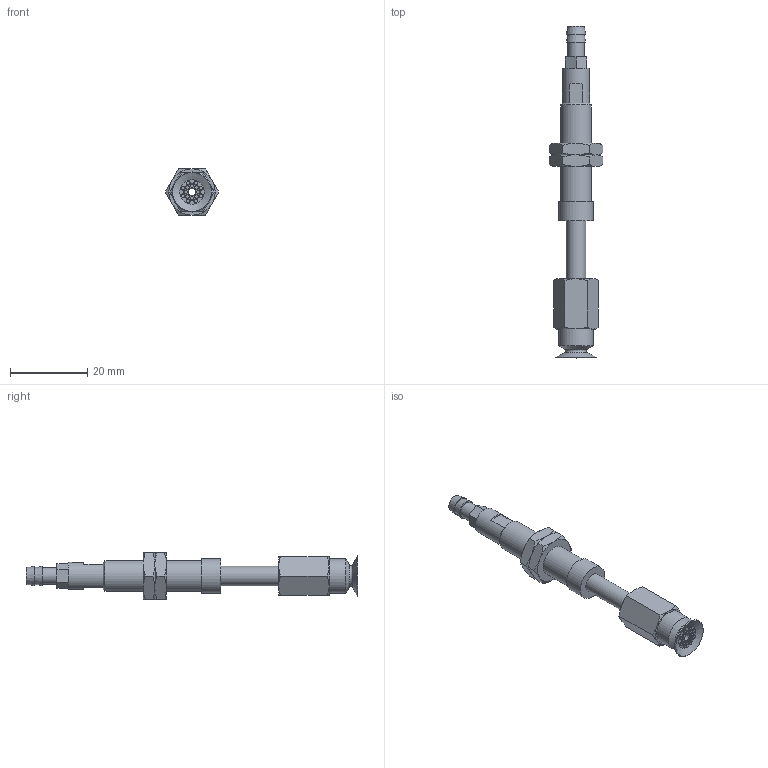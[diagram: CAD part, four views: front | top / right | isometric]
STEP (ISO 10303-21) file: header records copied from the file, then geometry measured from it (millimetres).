
FILE_DESCRIPTION(('STEP AP203'),'1');
FILE_NAME('-T.stp','2025-08-26T08:40:00',(' '),(' '),'Spatial InterOp 3D',' ',' ');
FILE_SCHEMA(('CONFIG_CONTROL_DESIGN'));
Length unit declared in the file: millimetre
Products named in the file (7): BNABPATS-10A-15-※-T; ADAPTER; NAPATS-10A-15--M; NAPATS-10A-15--F; Nut-10A-S; T; BPAG-10A-※_3D
Assembly tree (7 placements, depth 2):
  BNABPATS-10A-15-※-T
    ADAPTER
    NAPATS-10A-15--M
    NAPATS-10A-15--F
    Nut-10A-S  x2
    T
    BPAG-10A-※_3D
Bounding box: 13.86 x 86 x 12 mm (x, y, z)
Volume: 4106.6 mm3; surface area: 5102.5 mm2
Topology: 7 solids, 7 shells, 163 faces, 317 edges, 195 vertices
Faces by surface type: plane 69, cone 49, cylinder 35, torus 10
Full cylindrical faces by diameter (mm): 0.9 x16, 2 x3, 3 x1, 4 x2, 4.134 x1, 4.3 x1, 5 x3, 6 x2, 7 x1, 7.188 x2, 8 x1, 9 x2
Entity records: 3766 total; most frequent: CARTESIAN_POINT 802, DIRECTION 572, ORIENTED_EDGE 412, AXIS2_PLACEMENT_3D 266, EDGE_LOOP 234, EDGE_CURVE 206, FACE_OUTER_BOUND 184, VERTEX_POINT 160
